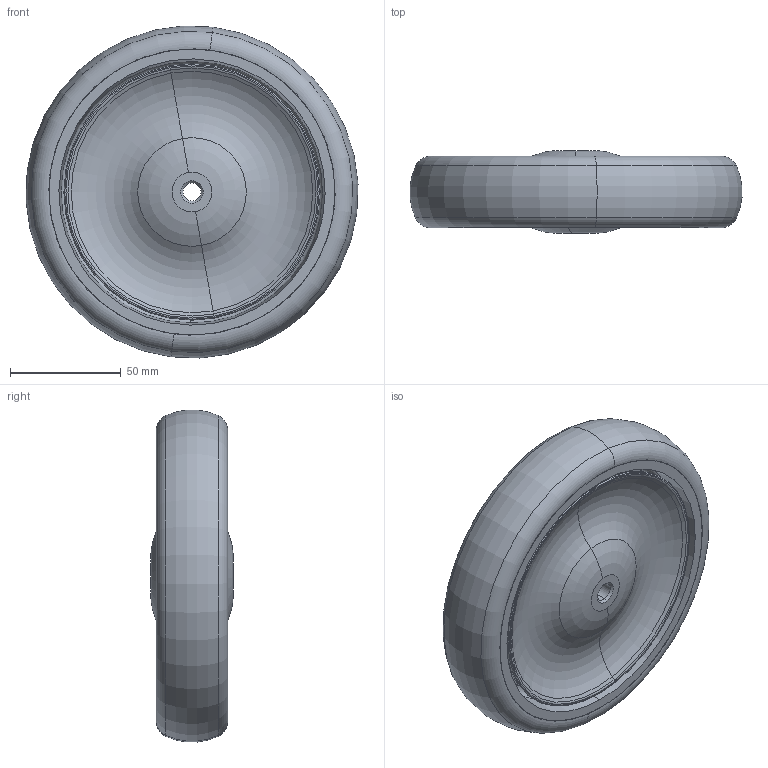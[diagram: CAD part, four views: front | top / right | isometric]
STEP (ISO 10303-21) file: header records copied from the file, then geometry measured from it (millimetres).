
FILE_DESCRIPTION (( 'STEP AP203' ), '1' );
FILE_NAME ('300075_STEP.STEP', '2012-02-27T10:19:28', ( '' ), ( '' ), 'SwSTEP 2.0', 'SolidWorks 2011', '' );
FILE_SCHEMA (( 'CONFIG_CONTROL_DESIGN' ));
Length unit declared in the file: millimetre
Products named in the file (1): 300075_STEP
Bounding box: 149.62 x 37.34 x 149.62 mm (x, y, z)
Surface area: 100912.1 mm2 (no closed solid volume)
Topology: 0 solids, 4 shells, 62 faces, 130 edges, 76 vertices
Faces by surface type: torus 26, cone 24, plane 8, cylinder 4
Entity records: 1752 total; most frequent: DIRECTION 358, CARTESIAN_POINT 269, ORIENTED_EDGE 248, AXIS2_PLACEMENT_3D 165, EDGE_CURVE 130, CIRCLE 102, VERTEX_POINT 76, EDGE_LOOP 70
